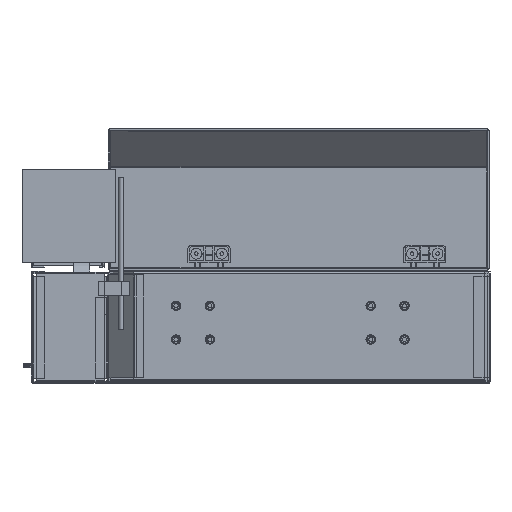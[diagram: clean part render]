
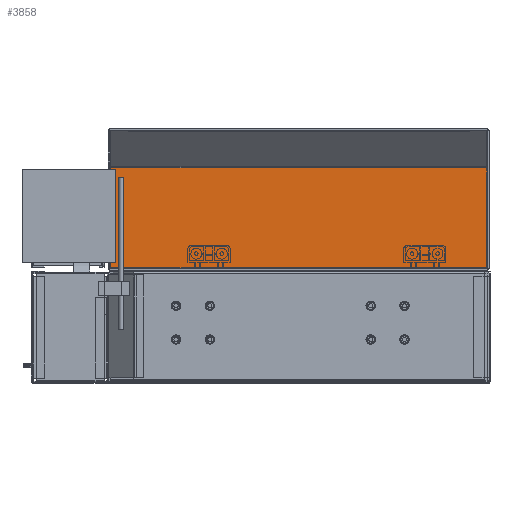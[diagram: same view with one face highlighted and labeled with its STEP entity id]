
A CAD part, front view. The second image highlights one B-rep face of the part: STEP entity #3858.
In plain terms, the highlighted planar face has unit normal (0, -1, 0).
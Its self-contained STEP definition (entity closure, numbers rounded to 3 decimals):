
#1181 = CARTESIAN_POINT ( 'NONE',  ( -88.314, 378.5, 5.5 ) ) ;
#1720 = CARTESIAN_POINT ( 'NONE',  ( -88.314, 378.5, 123.257 ) ) ;
#1981 = CARTESIAN_POINT ( 'NONE',  ( 355.686, 378.5, 64.379 ) ) ;
#3858 = ADVANCED_FACE ( 'NONE', ( #46087 ), #22515, .T. ) ;
#4551 = VECTOR ( 'NONE', #46184, 1000. ) ;
#8609 = EDGE_CURVE ( 'NONE', #11413, #59740, #45537, .T. ) ;
#9938 = CARTESIAN_POINT ( 'NONE',  ( 133.686, 378.5, 5.5 ) ) ;
#11413 = VERTEX_POINT ( 'NONE', #1181 ) ;
#12888 = DIRECTION ( 'NONE',  ( 0., 0., -1. ) ) ;
#14422 = CARTESIAN_POINT ( 'NONE',  ( 133.686, 378.5, 123.257 ) ) ;
#17532 = ORIENTED_EDGE ( 'NONE', *, *, #47745, .F. ) ;
#19227 = ORIENTED_EDGE ( 'NONE', *, *, #8609, .F. ) ;
#19264 = LINE ( 'NONE', #1981, #39419 ) ;
#22515 = PLANE ( 'NONE',  #23739 ) ;
#22899 = DIRECTION ( 'NONE',  ( 0., 0., -1. ) ) ;
#23638 = LINE ( 'NONE', #14422, #59945 ) ;
#23739 = AXIS2_PLACEMENT_3D ( 'NONE', #63765, #48450, #12888 ) ;
#24931 = DIRECTION ( 'NONE',  ( -1., 0., 0. ) ) ;
#31019 = VECTOR ( 'NONE', #46408, 1000. ) ;
#31086 = LINE ( 'NONE', #9938, #4551 ) ;
#31609 = EDGE_CURVE ( 'NONE', #62706, #59740, #23638, .T. ) ;
#39419 = VECTOR ( 'NONE', #22899, 1000. ) ;
#40945 = VERTEX_POINT ( 'NONE', #42294 ) ;
#42294 = CARTESIAN_POINT ( 'NONE',  ( 355.686, 378.5, 5.5 ) ) ;
#45094 = EDGE_LOOP ( 'NONE', ( #19227, #17532, #50281, #50856 ) ) ;
#45537 = LINE ( 'NONE', #51847, #31019 ) ;
#46087 = FACE_OUTER_BOUND ( 'NONE', #45094, .T. ) ;
#46184 = DIRECTION ( 'NONE',  ( -1., 0., 0. ) ) ;
#46408 = DIRECTION ( 'NONE',  ( 0., 0., 1. ) ) ;
#47745 = EDGE_CURVE ( 'NONE', #40945, #11413, #31086, .T. ) ;
#48450 = DIRECTION ( 'NONE',  ( 0., -1., 0. ) ) ;
#50281 = ORIENTED_EDGE ( 'NONE', *, *, #54491, .F. ) ;
#50856 = ORIENTED_EDGE ( 'NONE', *, *, #31609, .T. ) ;
#51847 = CARTESIAN_POINT ( 'NONE',  ( -88.314, 378.5, 64.379 ) ) ;
#54491 = EDGE_CURVE ( 'NONE', #62706, #40945, #19264, .T. ) ;
#59740 = VERTEX_POINT ( 'NONE', #1720 ) ;
#59945 = VECTOR ( 'NONE', #24931, 1000. ) ;
#62706 = VERTEX_POINT ( 'NONE', #64964 ) ;
#63765 = CARTESIAN_POINT ( 'NONE',  ( -88.314, 378.5, 123.257 ) ) ;
#64964 = CARTESIAN_POINT ( 'NONE',  ( 355.686, 378.5, 123.257 ) ) ;
